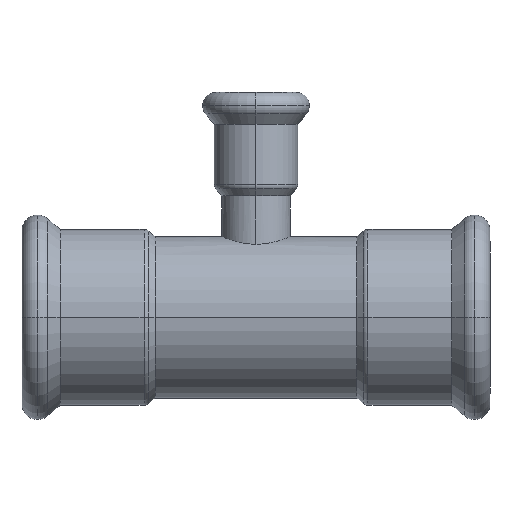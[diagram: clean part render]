
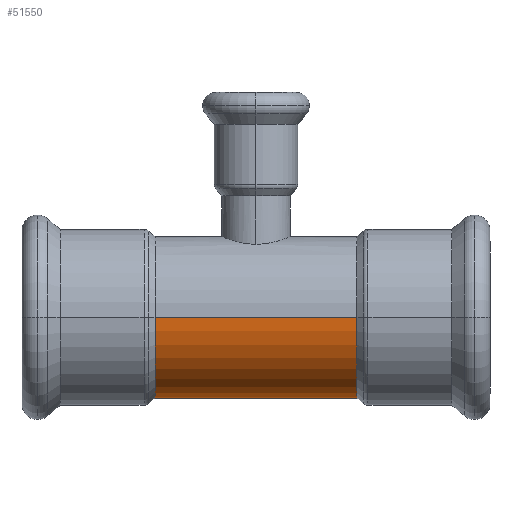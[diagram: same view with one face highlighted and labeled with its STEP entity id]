
A CAD part, left-side view. The second image highlights one B-rep face of the part: STEP entity #51550.
In plain terms, the highlighted cylindrical face has radius 17.594 mm (diameter 35.189 mm), a partial arc.
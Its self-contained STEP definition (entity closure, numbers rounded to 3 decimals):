
#160=CARTESIAN_POINT('',(-96.193,12.409,-22.));
#170=DIRECTION('',(0.,0.,-1.));
#180=DIRECTION('',(1.,0.,0.));
#190=AXIS2_PLACEMENT_3D('',#160,#170,#180);
#200=CYLINDRICAL_SURFACE('',#190,17.594);
#19240=CARTESIAN_POINT('',(-113.787,12.409,-22.));
#19250=DIRECTION('',(0.,0.,-1.));
#19260=VECTOR('',#19250,1.);
#19270=LINE('',#19240,#19260);
#19280=CARTESIAN_POINT('',(-113.787,12.409,22.));
#19290=VERTEX_POINT('',#19280);
#19300=CARTESIAN_POINT('',(-113.787,12.409,-22.));
#19310=VERTEX_POINT('',#19300);
#19320=EDGE_CURVE('',#19290,#19310,#19270,.T.);
#19340=CARTESIAN_POINT('',(-96.193,12.409,-22.));
#19350=DIRECTION('',(0.,0.,-1.));
#19360=DIRECTION('',(1.,0.,0.));
#19370=AXIS2_PLACEMENT_3D('',#19340,#19350,#19360);
#19380=CIRCLE('',#19370,17.594);
#19390=CARTESIAN_POINT('',(-78.598,12.409,-22.));
#19400=VERTEX_POINT('',#19390);
#19430=CARTESIAN_POINT('',(-78.598,12.409,-22.));
#19440=DIRECTION('',(0.,0.,-1.));
#19450=VECTOR('',#19440,1.);
#19460=LINE('',#19430,#19450);
#19470=CARTESIAN_POINT('',(-78.598,12.409,22.));
#19480=VERTEX_POINT('',#19470);
#19490=EDGE_CURVE('',#19480,#19400,#19460,.T.);
#19510=CARTESIAN_POINT('',(-96.193,12.409,22.));
#19520=DIRECTION('',(0.,0.,-1.));
#19530=DIRECTION('',(1.,0.,0.));
#19540=AXIS2_PLACEMENT_3D('',#19510,#19520,#19530);
#19550=CIRCLE('',#19540,17.594);
#51470=EDGE_CURVE('',#19400,#19310,#19380,.T.);
#51480=ORIENTED_EDGE('',*,*,#51470,.F.);
#51490=ORIENTED_EDGE('',*,*,#19320,.T.);
#51500=EDGE_CURVE('',#19480,#19290,#19550,.T.);
#51510=ORIENTED_EDGE('',*,*,#51500,.T.);
#51520=ORIENTED_EDGE('',*,*,#19490,.F.);
#51530=EDGE_LOOP('',(#51520,#51510,#51490,#51480));
#51540=FACE_OUTER_BOUND('',#51530,.T.);
#51550=ADVANCED_FACE('',(#51540),#200,.T.);
